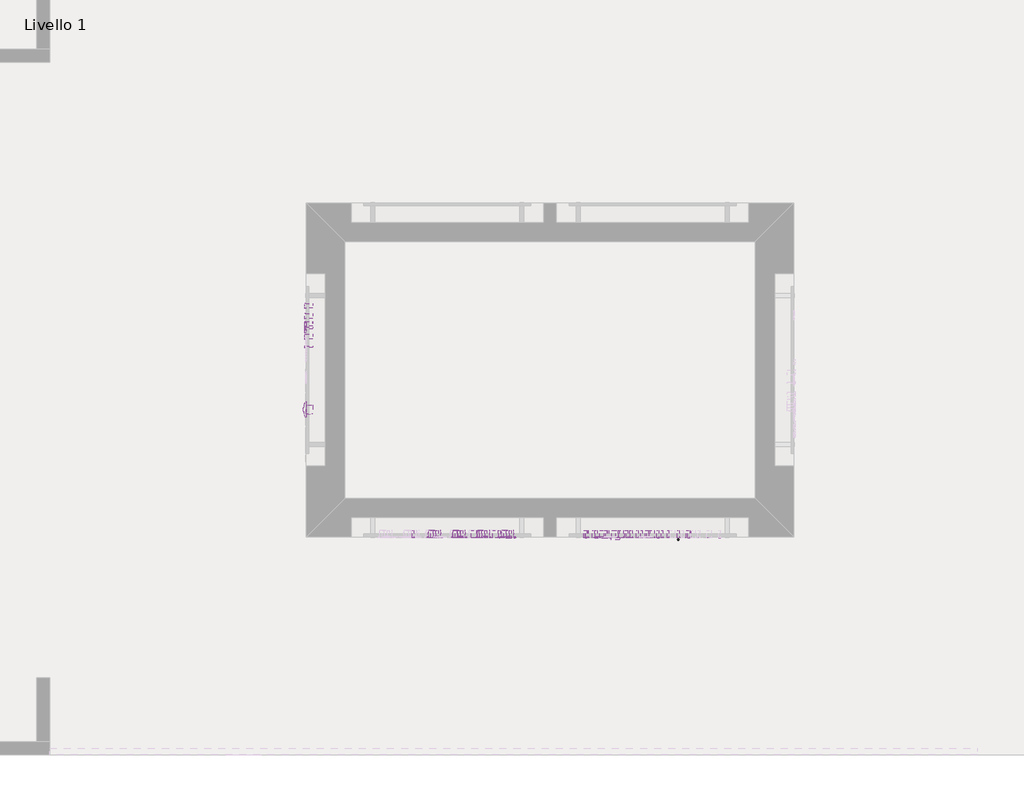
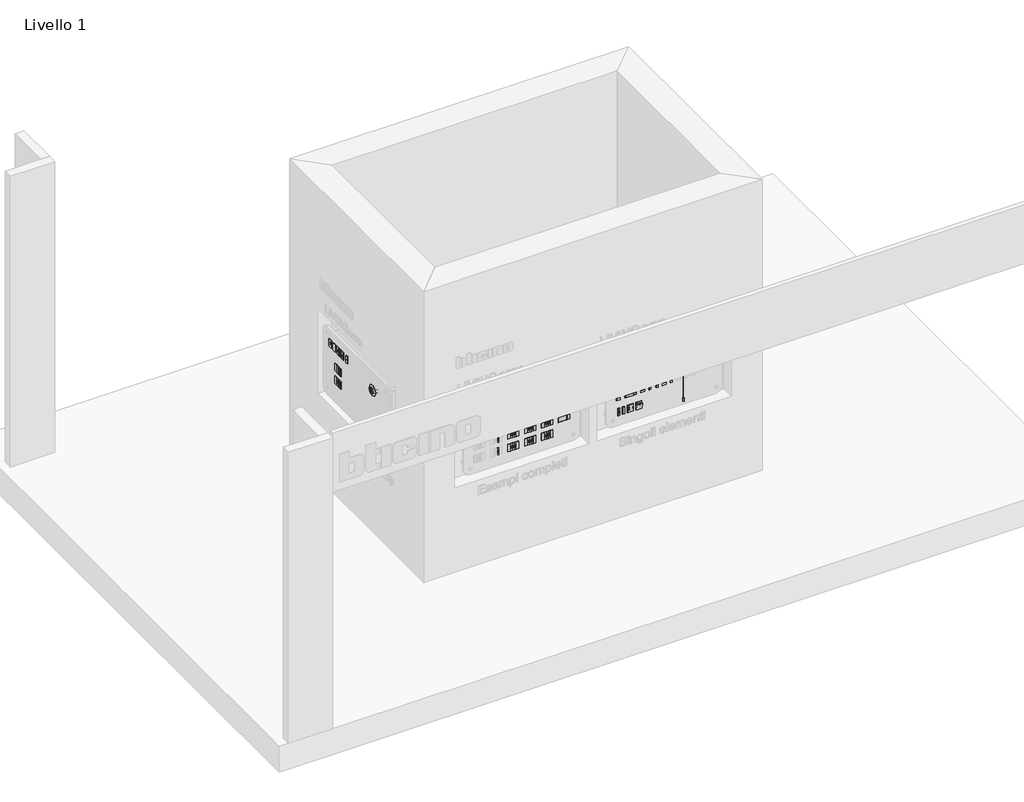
# One storey, part 2 of 4: 52 proxies, 41 switching devices, 5 electric appliances, 1 light fixture.
"""IFC4 building model written with IfcOpenShell, lengths in millimetres."""

from ifc_helpers import new_model, si_unit, origin, place, context, project, spatial, transform, mapped, element, save
from components import communication_devices_3eb54693, electrical_fixtures_f9fe39f6, electrical_fixtures_52576e28, electrical_fixtures_2f19633e, electrical_fixtures_c0c311a9, communication_devices_861a76ba, electrical_fixtures_a66001f9, electrical_fixtures_e0f45b47, communication_devices_85c52ba2, electrical_fixtures_17be88af, electrical_fixtures_2734a769, security_devices_0f9b99a1, electrical_fixtures_8cdf7b6b, electrical_fixtures_a790ef4b, electrical_fixtures_858ea2d2, communication_devices_b7847fef, electrical_fixtures_b1f5ccc0, electrical_fixtures_a1f34e63, electrical_fixtures_146f3771, electrical_fixtures_4785ec01, electrical_equipment_9f0ce258, electrical_fixtures_a492924f, electrical_fixtures_8138bb5d, communication_devices_93ffdf5a, communication_devices_daa9677e, electrical_fixtures_2dbe9040, electrical_fixtures_bfd4cbcf, dimmer_art_k4410_2m_cover_bianco_5cf1a9bc, electric_appliance_a1e4e876, electric_appliance_2f5c1887, electric_appliance_82e80eb8, electric_appliance_112297c8, electric_appliance_8558186f, light_fixture_13e298cc, electrical_fixtures_1fd5a0d3, switching_device_ea576e52, switching_device_fe507ace, switching_device_739d178a, switching_device_65dad4bc, switching_device_90496991, switching_device_5ea9bc78

model = new_model("IFC4")

# Units and contexts
model_context = context("Model", 3, world=origin())
ifc_project = project(units=[si_unit("LENGTHUNIT", "METRE", prefix="MILLI")], contexts=[model_context])

# Site, building, storey
site = spatial("IfcSite", under=ifc_project)
building = spatial("IfcBuilding", under=site)
storey = spatial("IfcBuildingStorey", under=building, Name="Livello 1", Elevation=0.0)

# Proxies
placement = place(None, origin())
communication_devices_shape = communication_devices_3eb54693(model_context)
element("IfcBuildingElementProxy", 1, Name="BT_LN-CoverDispositiviFalsiPoli : Falso polo - Art. K4950 - 1M - Cover Bianco", ObjectType="BT_LN-CoverDispositiviFalsiPoli : Falso polo - Art. K4950 - 1M - Cover Bianco", at=placement, inside=storey, context=model_context, shape_type="MappedRepresentation", body=[
    mapped(communication_devices_shape, transform((12353.8446289, 5119.1271843, 1750.0), x_axis=(1.0, 0.0, 0.0), y_axis=(0.0, 0.0, 1.0), z_axis=(0.0, -1.0, 0.0))),
])
element("IfcBuildingElementProxy", 2, Name="BT_LN-CoverDispositiviFalsiPoli : Falso polo - Art. K4950 - 1M - Cover Bianco", ObjectType="BT_LN-CoverDispositiviFalsiPoli : Falso polo - Art. K4950 - 1M - Cover Bianco", at=placement, inside=storey, context=model_context, shape_type="MappedRepresentation", body=[
    mapped(communication_devices_shape, transform((10223.8446289, 6696.5066564, 1525.8440779), x_axis=(0.0, -1.0, 0.0), y_axis=(0.0, 0.0, 1.0), z_axis=(-1.0, 0.0, 0.0))),
])
electrical_fixtures_shape = electrical_fixtures_f9fe39f6(model_context)
element("IfcBuildingElementProxy", 3, Name="BT_LN-ScatolaIncasso50x_ConPlacca : Scatola da incasso 503E - 3M - Placca Space", ObjectType="BT_LN-ScatolaIncasso50x_ConPlacca : Scatola da incasso 503E - 3M - Placca Space", at=placement, inside=storey, context=model_context, shape_type="MappedRepresentation", body=[
    mapped(electrical_fixtures_shape, transform((11173.8446289, 5069.1271843, 1270.7818091), x_axis=(1.0, 0.0, 0.0), y_axis=(0.0, 0.0, 1.0), z_axis=(0.0, -1.0, 0.0))),
])
electrical_fixtures_2_shape = electrical_fixtures_52576e28(model_context)
element("IfcBuildingElementProxy", 4, Name="BT_LN-ComandoConnesso1M : Comando Tapparelle - Art. K4027C - 1M - Cover Bianco", ObjectType="BT_LN-ComandoConnesso1M : Comando Tapparelle - Art. K4027C - 1M - Cover Bianco", at=placement, inside=storey, context=model_context, shape_type="MappedRepresentation", body=[
    mapped(electrical_fixtures_2_shape, transform((12513.8446289, 5119.1271843, 1750.0), x_axis=(-1.0, 0.0, 0.0), y_axis=(0.0, 0.0, -1.0), z_axis=(0.0, -1.0, 0.0))),
])
element("IfcBuildingElementProxy", 5, Name="BT_LN-Commutatore : Comando Tapparelle - Art. K4037 - 1M - Cover Bianco", ObjectType="BT_LN-Commutatore : Comando Tapparelle - Art. K4037 - 1M - Cover Bianco", at=placement, inside=storey, context=model_context, shape_type="MappedRepresentation", body=[
    mapped(electrical_fixtures_2_shape, transform((12593.8446289, 5119.1271843, 1750.0), x_axis=(1.0, 0.0, 0.0), y_axis=(0.0, 0.0, 1.0), z_axis=(0.0, -1.0, 0.0))),
])
element("IfcBuildingElementProxy", 6, Name="BT_LN-ScatolaIncasso50x_ConPlacca : Scatola da incasso 503E - 3M - Placca Ghiaccio", ObjectType="BT_LN-ScatolaIncasso50x_ConPlacca : Scatola da incasso 503E - 3M - Placca Ghiaccio", at=placement, inside=storey, context=model_context, shape_type="MappedRepresentation", body=[
    mapped(electrical_fixtures_shape, transform((11743.8446289, 5069.1271843, 1570.7818091), x_axis=(1.0, 0.0, 0.0), y_axis=(0.0, 0.0, 1.0), z_axis=(0.0, -1.0, 0.0))),
])
electrical_fixtures_3_shape = electrical_fixtures_2f19633e(model_context)
element("IfcBuildingElementProxy", 7, Name="BT_LN-PresaBipasso : Presa Bipasso - Art. KW4180 - 1M - Cover Bianco", ObjectType="BT_LN-PresaBipasso : Presa Bipasso - Art. KW4180 - 1M - Cover Bianco", at=placement, inside=storey, context=model_context, shape_type="MappedRepresentation", body=[
    mapped(electrical_fixtures_3_shape, transform((12753.8446289, 5119.1271843, 1750.0), x_axis=(1.0, 0.0, 0.0), y_axis=(0.0, 0.0, 1.0), z_axis=(0.0, -1.0, 0.0))),
])
electrical_fixtures_4_shape = electrical_fixtures_c0c311a9(model_context)
element("IfcBuildingElementProxy", 8, Name="BT_LN-PresaStandard_Ita-Ger : Prese standard Italia/Germania - Art.KW4140A16 - 2M - Cover Bianco", ObjectType="BT_LN-PresaStandard_Ita-Ger : Prese standard Italia/Germania - Art.KW4140A16 - 2M - Cover Bianco", at=placement, inside=storey, context=model_context, shape_type="MappedRepresentation", body=[
    mapped(electrical_fixtures_4_shape, transform((12833.8446289, 5119.1271843, 1750.0), x_axis=(1.0, 0.0, 0.0), y_axis=(0.0, 0.0, 1.0), z_axis=(0.0, -1.0, 0.0))),
])
communication_devices_2_shape = communication_devices_861a76ba(model_context)
element("IfcBuildingElementProxy", 9, Name="BT_LN-ConnettoriAudioVideo_ConnettoriAltoparlante : ConnettoreAltoparlanteHomeCinema - KW4294 - 1M - Cover Bianco", ObjectType="BT_LN-ConnettoriAudioVideo_ConnettoriAltoparlante : ConnettoreAltoparlanteHomeCinema - KW4294 - 1M - Cover Bianco", at=placement, inside=storey, context=model_context, shape_type="MappedRepresentation", body=[
    mapped(communication_devices_2_shape, transform((12913.8446289, 5119.1271843, 1750.0), x_axis=(1.0, 0.0, 0.0), y_axis=(0.0, 0.0, 1.0), z_axis=(0.0, -1.0, 0.0))),
])
electrical_fixtures_5_shape = electrical_fixtures_a66001f9(model_context)
element("IfcBuildingElementProxy", 10, Name="BT_LN-ConnettoriAudioVideo_K4284P : Connettore HDMI - Art. K4284P - 1M - Cover Bianco", ObjectType="BT_LN-ConnettoriAudioVideo_K4284P : Connettore HDMI - Art. K4284P - 1M - Cover Bianco", at=placement, inside=storey, context=model_context, shape_type="MappedRepresentation", body=[
    mapped(electrical_fixtures_5_shape, transform((12993.8446289, 5119.1271843, 1750.0), x_axis=(1.0, 0.0, 0.0), y_axis=(0.0, 0.0, 1.0), z_axis=(0.0, -1.0, 0.0))),
])
electrical_fixtures_6_shape = electrical_fixtures_e0f45b47(model_context)
element("IfcBuildingElementProxy", 11, Name="BT_LN-ConnettoriAudioVideo_K4285P : Connettore USB-A - Art. K4285P - 1M - Cover Bianco", ObjectType="BT_LN-ConnettoriAudioVideo_K4285P : Connettore USB-A - Art. K4285P - 1M - Cover Bianco", at=placement, inside=storey, context=model_context, shape_type="MappedRepresentation", body=[
    mapped(electrical_fixtures_6_shape, transform((13073.8446289, 5119.1271843, 1750.0), x_axis=(1.0, 0.0, 0.0), y_axis=(0.0, 0.0, 1.0), z_axis=(0.0, -1.0, 0.0))),
])
communication_devices_3_shape = communication_devices_85c52ba2(model_context)
element("IfcBuildingElementProxy", 12, Name="BT_LN-ConnettoriAudioVideo_ModuloDoppioRCA : ModuloDoppioRCA - Art. KW4269R - 1M - Cover Bianco", ObjectType="BT_LN-ConnettoriAudioVideo_ModuloDoppioRCA : ModuloDoppioRCA - Art. KW4269R - 1M - Cover Bianco", at=placement, inside=storey, context=model_context, shape_type="MappedRepresentation", body=[
    mapped(communication_devices_3_shape, transform((13153.8446289, 5119.1271843, 1750.0), x_axis=(1.0, 0.0, 0.0), y_axis=(0.0, 0.0, 1.0), z_axis=(0.0, -1.0, 0.0))),
])
electrical_fixtures_7_shape = electrical_fixtures_17be88af(model_context)
element("IfcBuildingElementProxy", 13, Name="BT_LN-CoverDispositiviFalsiPoliConUscita : Cover Per Dispositivi Falsi Poli Con Uscita - Art. K4953 - 1M - Cover Bianco", ObjectType="BT_LN-CoverDispositiviFalsiPoliConUscita : Cover Per Dispositivi Falsi Poli Con Uscita - Art. K4953 - 1M - Cover Bianco", at=placement, inside=storey, context=model_context, shape_type="MappedRepresentation", body=[
    mapped(electrical_fixtures_7_shape, transform((13233.8446289, 5119.1271843, 1750.0), x_axis=(-1.0, 0.0, 0.0), y_axis=(0.0, 0.0, -1.0), z_axis=(0.0, -1.0, 0.0))),
])
electrical_fixtures_8_shape = electrical_fixtures_2734a769(model_context)
element("IfcBuildingElementProxy", 14, Name="BT_LN-InterruttoreBipolare : Interruttore Bipolare - Art. KW4002 - 1M - Cover Bianco", ObjectType="BT_LN-InterruttoreBipolare : Interruttore Bipolare - Art. KW4002 - 1M - Cover Bianco", at=placement, inside=storey, context=model_context, shape_type="MappedRepresentation", body=[
    mapped(electrical_fixtures_8_shape, transform((13393.8446289, 5119.1271843, 1750.0), x_axis=(-1.0, 0.0, 0.0), y_axis=(0.0, 0.0, -1.0), z_axis=(0.0, -1.0, 0.0))),
])
security_devices_shape = security_devices_0f9b99a1(model_context)
element("IfcBuildingElementProxy", 15, Name="BT_LN-LampadaDiSicurezza_K4381 : Lampada Di Sicurezza a LED - Art. K4381 - 1M - Cover Sabbia", ObjectType="BT_LN-LampadaDiSicurezza_K4381 : Lampada Di Sicurezza a LED - Art. K4381 - 1M - Cover Sabbia", at=placement, inside=storey, context=model_context, shape_type="MappedRepresentation", body=[
    mapped(security_devices_shape, transform((12593.8446289, 5119.1271843, 1600.0), x_axis=(-1.0, 0.0, 0.0), y_axis=(0.0, 0.0, -1.0), z_axis=(0.0, -1.0, 0.0))),
])
electrical_fixtures_9_shape = electrical_fixtures_8cdf7b6b(model_context)
element("IfcBuildingElementProxy", 16, Name="BT_LN-Presa10A : Presa 10A - Art. KM4113 - 1M - Cover Sabbia", ObjectType="BT_LN-Presa10A : Presa 10A - Art. KM4113 - 1M - Cover Sabbia", at=placement, inside=storey, context=model_context, shape_type="MappedRepresentation", body=[
    mapped(electrical_fixtures_9_shape, transform((12673.8446289, 5119.1271843, 1600.0), x_axis=(-1.0, 0.0, 0.0), y_axis=(0.0, 0.0, -1.0), z_axis=(0.0, -1.0, 0.0))),
])
element("IfcBuildingElementProxy", 17, Name="BT_LN-PulsanteApertura : Pulsante di apertura 10A - Art. K4034 - 1M - Cover Sabbia", ObjectType="BT_LN-PulsanteApertura : Pulsante di apertura 10A - Art. K4034 - 1M - Cover Sabbia", at=placement, inside=storey, context=model_context, shape_type="MappedRepresentation", body=[
    mapped(electrical_fixtures_2_shape, transform((12993.8446289, 5119.1271843, 1600.0), x_axis=(-1.0, 0.0, 0.0), y_axis=(0.0, 0.0, -1.0), z_axis=(0.0, -1.0, 0.0))),
])
electrical_fixtures_10_shape = electrical_fixtures_a790ef4b(model_context)
element("IfcBuildingElementProxy", 18, Name="BT_LN-PulsanteATirante : Pulsante a tirante - Art. KM4033 - 1M - Cover Sabbia", ObjectType="BT_LN-PulsanteATirante : Pulsante a tirante - Art. KM4033 - 1M - Cover Sabbia", at=placement, inside=storey, context=model_context, shape_type="MappedRepresentation", body=[
    mapped(electrical_fixtures_10_shape, transform((13073.8446289, 5119.1271843, 1600.0), x_axis=(1.0, 0.0, 0.0), y_axis=(0.0, 0.0, 1.0), z_axis=(0.0, -1.0, 0.0))),
])
electrical_fixtures_11_shape = electrical_fixtures_858ea2d2(model_context)
element("IfcBuildingElementProxy", 19, Name="BT_LN-PulsanteTarga : Pulsante targa 3A - Art. K4040 - 2M", ObjectType="BT_LN-PulsanteTarga : Pulsante targa 3A - Art. K4040 - 2M", at=placement, inside=storey, context=model_context, shape_type="MappedRepresentation", body=[
    mapped(electrical_fixtures_11_shape, transform((13153.8446289, 5119.1271843, 1600.0), x_axis=(1.0, 0.0, 0.0), y_axis=(0.0, 0.0, 1.0), z_axis=(0.0, -1.0, 0.0))),
])
communication_devices_4_shape = communication_devices_b7847fef(model_context)
element("IfcBuildingElementProxy", 20, Name="BT_LN-SegnalazioneAcustica_Suoneria_K4351V12 : Suoneria - Art. K4355V12 - 2M - Cover Sabbia", ObjectType="BT_LN-SegnalazioneAcustica_Suoneria_K4351V12 : Suoneria - Art. K4355V12 - 2M - Cover Sabbia", at=placement, inside=storey, context=model_context, shape_type="MappedRepresentation", body=[
    mapped(communication_devices_4_shape, transform((11333.3177461, 5119.1271843, 1758.0), x_axis=(1.0, 0.0, 0.0), y_axis=(0.0, 0.0, 1.0), z_axis=(0.0, -1.0, 0.0))),
])
element("IfcBuildingElementProxy", 21, Name="BT_LN-Termostato : Termostato - Art. KG4441 - 2M - Cover Nero", ObjectType="BT_LN-Termostato : Termostato - Art. KG4441 - 2M - Cover Nero", at=placement, inside=storey, context=model_context, shape_type="MappedRepresentation", body=[
    mapped(communication_devices_4_shape, transform((12353.8446289, 5119.1271843, 1450.0), x_axis=(1.0, 0.0, 0.0), y_axis=(0.0, 0.0, 1.0), z_axis=(0.0, -1.0, 0.0))),
])
element("IfcBuildingElementProxy", 22, Name="BT_LN-Termostato : Termostato - Art. KG4441 - 2M - Cover Nero", ObjectType="BT_LN-Termostato : Termostato - Art. KG4441 - 2M - Cover Nero", at=placement, inside=storey, context=model_context, shape_type="MappedRepresentation", body=[
    mapped(communication_devices_4_shape, transform((11647.171355, 5119.1271843, 1758.0), x_axis=(1.0, 0.0, 0.0), y_axis=(0.0, 0.0, 1.0), z_axis=(0.0, -1.0, 0.0))),
])
electrical_fixtures_12_shape = electrical_fixtures_b1f5ccc0(model_context)
element("IfcBuildingElementProxy", 23, Name="BT_LN-TermostatoConnesso : Termostato connesso - Art. XG8002 -  3M - Cover Nero", ObjectType="BT_LN-TermostatoConnesso : Termostato connesso - Art. XG8002 -  3M - Cover Nero", at=placement, inside=storey, context=model_context, shape_type="MappedRepresentation", body=[
    mapped(electrical_fixtures_12_shape, transform((12491.8446289, 5069.1271843, 1450.0), x_axis=(1.0, 0.0, 0.0), y_axis=(0.0, 0.0, 1.0), z_axis=(0.0, -1.0, 0.0))),
])
element("IfcBuildingElementProxy", 24, Name="BT_LN-TermostatoConnesso : Termostato connesso - Art. XG8002 -  3M - Cover Nero", ObjectType="BT_LN-TermostatoConnesso : Termostato connesso - Art. XG8002 -  3M - Cover Nero", at=placement, inside=storey, context=model_context, shape_type="MappedRepresentation", body=[
    mapped(electrical_fixtures_12_shape, transform((11743.8446289, 5069.1271843, 1420.7818091), x_axis=(1.0, 0.0, 0.0), y_axis=(0.0, 0.0, 1.0), z_axis=(0.0, -1.0, 0.0))),
])
electrical_fixtures_13_shape = electrical_fixtures_a1f34e63(model_context)
element("IfcBuildingElementProxy", 25, Name="BT_LN-USB_A.C-K4287C2 : Presa USB-A - Art.4287C2 - 2M - Cover Nero", ObjectType="BT_LN-USB_A.C-K4287C2 : Presa USB-A - Art.4287C2 - 2M - Cover Nero", at=placement, inside=storey, context=model_context, shape_type="MappedRepresentation", body=[
    mapped(electrical_fixtures_13_shape, transform((12866.8446289, 5119.1271843, 1450.0), x_axis=(1.0, 0.0, 0.0), y_axis=(0.0, 0.0, 1.0), z_axis=(0.0, -1.0, 0.0))),
])
element("IfcBuildingElementProxy", 26, Name="BT_LN-USB_A-K4285C1 : Presa USB-A - Art. K4285C1 - 1M - Cover Nero", ObjectType="BT_LN-USB_A-K4285C1 : Presa USB-A - Art. K4285C1 - 1M - Cover Nero", at=placement, inside=storey, context=model_context, shape_type="MappedRepresentation", body=[
    mapped(electrical_fixtures_6_shape, transform((12946.8446289, 5119.1271843, 1450.0), x_axis=(1.0, 0.0, 0.0), y_axis=(0.0, 0.0, 1.0), z_axis=(0.0, -1.0, 0.0))),
])
electrical_fixtures_14_shape = electrical_fixtures_146f3771(model_context)
element("IfcBuildingElementProxy", 27, Name="BT_LN-USB_A-K4285C2 : Presa USB-A - Art. K4285C2 - 2M - Cover Nero", ObjectType="BT_LN-USB_A-K4285C2 : Presa USB-A - Art. K4285C2 - 2M - Cover Nero", at=placement, inside=storey, context=model_context, shape_type="MappedRepresentation", body=[
    mapped(electrical_fixtures_14_shape, transform((11479.971355, 5119.1271843, 1758.0), x_axis=(1.0, 0.0, 0.0), y_axis=(0.0, 0.0, 1.0), z_axis=(0.0, -1.0, 0.0))),
])
electrical_fixtures_15_shape = electrical_fixtures_4785ec01(model_context)
element("IfcBuildingElementProxy", 28, Name="BT_LN-USB_A-K4286C1 : Presa USB-C - Art. K4286C1 - 1M - Cover Nero", ObjectType="BT_LN-USB_A-K4286C1 : Presa USB-C - Art. K4286C1 - 1M - Cover Nero", at=placement, inside=storey, context=model_context, shape_type="MappedRepresentation", body=[
    mapped(electrical_fixtures_15_shape, transform((11512.971355, 5119.1271843, 1758.0), x_axis=(1.0, 0.0, 0.0), y_axis=(0.0, 0.0, 1.0), z_axis=(0.0, -1.0, 0.0))),
])
electrical_equipment_shape = electrical_equipment_9f0ce258(model_context)
element("IfcBuildingElementProxy", 29, Name="BT_LN_PlaccaSuperficiale_Placca : Living Now - Placca 3 Moduli", ObjectType="BT_LN_PlaccaSuperficiale_Placca : Living Now - Placca 3 Moduli", at=placement, inside=storey, context=model_context, shape_type="MappedRepresentation", body=[
    mapped(electrical_equipment_shape, transform((10173.8446289, 6718.2191564, 1525.8440779), x_axis=(0.0, -1.0, 0.0), y_axis=(0.0, 0.0, 1.0), z_axis=(-1.0, 0.0, 0.0))),
])
element("IfcBuildingElementProxy", 30, Name="BT_LN_PlaccaSuperficiale_Placca : Living Now - Placca 3 Moduli", ObjectType="BT_LN_PlaccaSuperficiale_Placca : Living Now - Placca 3 Moduli", at=placement, inside=storey, context=model_context, shape_type="MappedRepresentation", body=[
    mapped(electrical_equipment_shape, transform((10173.8446289, 6718.2191564, 1375.8440779), x_axis=(0.0, -1.0, 0.0), y_axis=(0.0, 0.0, 1.0), z_axis=(-1.0, 0.0, 0.0))),
])
electrical_fixtures_16_shape = electrical_fixtures_a492924f(model_context)
element("IfcBuildingElementProxy", 31, Name="BT_LN_MHU-AttuatoreComando : Attuatore/Comando Tapparelle  - Art. K4672M2S - 2M - Colore nero", ObjectType="BT_LN_MHU-AttuatoreComando : Attuatore/Comando Tapparelle  - Art. K4672M2S - 2M - Colore nero", at=placement, inside=storey, context=model_context, shape_type="MappedRepresentation", body=[
    mapped(electrical_fixtures_16_shape, transform((10222.8446289, 6729.2191564, 1375.8440779), x_axis=(0.0, -1.0, 0.0), y_axis=(0.0, 0.0, 1.0), z_axis=(-1.0, 0.0, 0.0))),
])
element("IfcBuildingElementProxy", 32, Name="BT_LN_MHU-AttuatoreComando : Attuatore/Comando Tapparelle  - Art. K4672M2S - 2M - Colore nero", ObjectType="BT_LN_MHU-AttuatoreComando : Attuatore/Comando Tapparelle  - Art. K4672M2S - 2M - Colore nero", at=placement, inside=storey, context=model_context, shape_type="MappedRepresentation", body=[
    mapped(electrical_fixtures_16_shape, transform((10223.8446289, 6869.1271843, 1750.0), x_axis=(0.0, 1.0, 0.0), y_axis=(0.0, 0.0, -1.0), z_axis=(-1.0, 0.0, 0.0))),
])
element("IfcBuildingElementProxy", 33, Name="BT_LN-CoverDispositiviFalsiPoli : Falso polo - Art. K4950 - 1M - Cover Nero", ObjectType="BT_LN-CoverDispositiviFalsiPoli : Falso polo - Art. K4950 - 1M - Cover Nero", at=placement, inside=storey, context=model_context, shape_type="MappedRepresentation", body=[
    mapped(communication_devices_shape, transform((10223.8446289, 6696.2191564, 1375.8440779), x_axis=(0.0, -1.0, 0.0), y_axis=(0.0, 0.0, 1.0), z_axis=(-1.0, 0.0, 0.0))),
])
element("IfcBuildingElementProxy", 34, Name="BT_LN-CoverDispositiviFalsiPoli : Falso polo - Art. K4950 - 1M - Cover Nero", ObjectType="BT_LN-CoverDispositiviFalsiPoli : Falso polo - Art. K4950 - 1M - Cover Nero", at=placement, inside=storey, context=model_context, shape_type="MappedRepresentation", body=[
    mapped(communication_devices_shape, transform((11680.196355, 5119.1271843, 1758.0), x_axis=(1.0, 0.0, 0.0), y_axis=(0.0, 0.0, 1.0), z_axis=(0.0, -1.0, 0.0))),
])
element("IfcBuildingElementProxy", 35, Name="BT_LN_MHU-Termostato : Termostato MyHome_UP - Art. KW4691 - 2M - Cover bianco", ObjectType="BT_LN_MHU-Termostato : Termostato MyHome_UP - Art. KW4691 - 2M - Cover bianco", at=placement, inside=storey, context=model_context, shape_type="MappedRepresentation", body=[
    mapped(communication_devices_4_shape, transform((10223.8446289, 6729.5191564, 1525.8440779), x_axis=(0.0, -1.0, 0.0), y_axis=(0.0, 0.0, 1.0), z_axis=(-1.0, 0.0, 0.0))),
])
element("IfcBuildingElementProxy", 36, Name="BT_LN_MHU-Termostato : Termostato MyHome_UP - Art. KW4691 - 2M - Cover bianco", ObjectType="BT_LN_MHU-Termostato : Termostato MyHome_UP - Art. KW4691 - 2M - Cover bianco", at=placement, inside=storey, context=model_context, shape_type="MappedRepresentation", body=[
    mapped(communication_devices_4_shape, transform((10223.8446289, 6789.1271843, 1750.0), x_axis=(0.0, -1.0, 0.0), y_axis=(0.0, 0.0, 1.0), z_axis=(-1.0, 0.0, 0.0))),
])
electrical_fixtures_17_shape = electrical_fixtures_8138bb5d(model_context)
element("IfcBuildingElementProxy", 37, Name="BT_LN_MHU-DispositiviDiComando_3M : Dispositivi di comando  - Art. K4652M3 - 3M - Cover sabbia", ObjectType="BT_LN_MHU-DispositiviDiComando_3M : Dispositivi di comando  - Art. K4652M3 - 3M - Cover sabbia", at=placement, inside=storey, context=model_context, shape_type="MappedRepresentation", body=[
    mapped(electrical_fixtures_17_shape, transform((10173.8446289, 6709.1271843, 1750.0), x_axis=(0.0, -1.0, 0.0), y_axis=(0.0, 0.0, 1.0), z_axis=(-1.0, 0.0, 0.0))),
])
communication_devices_5_shape = communication_devices_93ffdf5a(model_context)
element("IfcBuildingElementProxy", 38, Name="BT_LN_MHU-LettoreProssimita : Lettore Prossimita - Art. K4215 - 1M - Cover Bianco", ObjectType="BT_LN_MHU-LettoreProssimita : Lettore Prossimita - Art. K4215 - 1M - Cover Bianco", at=placement, inside=storey, context=model_context, shape_type="MappedRepresentation", body=[
    mapped(communication_devices_5_shape, transform((10223.8446289, 6549.1271843, 1750.0), x_axis=(0.0, 1.0, 0.0), y_axis=(0.0, 0.0, -1.0), z_axis=(-1.0, 0.0, 0.0))),
])
element("IfcBuildingElementProxy", 39, Name="BT_LN-CoverDispositiviFalsiPoli : Falso polo - Art. K4950 - 1M - Cover Sabbia", ObjectType="BT_LN-CoverDispositiviFalsiPoli : Falso polo - Art. K4950 - 1M - Cover Sabbia", at=placement, inside=storey, context=model_context, shape_type="MappedRepresentation", body=[
    mapped(communication_devices_shape, transform((11366.3177461, 5119.1271843, 1758.0), x_axis=(1.0, 0.0, 0.0), y_axis=(0.0, 0.0, 1.0), z_axis=(0.0, -1.0, 0.0))),
])
element("IfcBuildingElementProxy", 40, Name="BT_LN-ScatolaIncasso50x_ConPlacca : Scatola da incasso 503E - 3M - Placca Noce", ObjectType="BT_LN-ScatolaIncasso50x_ConPlacca : Scatola da incasso 503E - 3M - Placca Noce", at=placement, inside=storey, context=model_context, shape_type="MappedRepresentation", body=[
    mapped(electrical_fixtures_shape, transform((11363.8446289, 5069.1271843, 1270.7818091), x_axis=(1.0, 0.0, 0.0), y_axis=(0.0, 0.0, 1.0), z_axis=(0.0, -1.0, 0.0))),
])
element("IfcBuildingElementProxy", 41, Name="BT_LN-ScatolaIncasso50x_ConPlacca : Scatola da incasso 503E - 3M - Placca Moon", ObjectType="BT_LN-ScatolaIncasso50x_ConPlacca : Scatola da incasso 503E - 3M - Placca Moon", at=placement, inside=storey, context=model_context, shape_type="MappedRepresentation", body=[
    mapped(electrical_fixtures_shape, transform((11173.8446289, 5069.1271843, 1570.7818091), x_axis=(1.0, 0.0, 0.0), y_axis=(0.0, 0.0, 1.0), z_axis=(0.0, -1.0, 0.0))),
])
element("IfcBuildingElementProxy", 42, Name="BT_LN-ScatolaIncasso50x_ConPlacca : Scatola da incasso 503E - 3M - Placca Sky", ObjectType="BT_LN-ScatolaIncasso50x_ConPlacca : Scatola da incasso 503E - 3M - Placca Sky", at=placement, inside=storey, context=model_context, shape_type="MappedRepresentation", body=[
    mapped(electrical_fixtures_shape, transform((11363.8446289, 5069.1271843, 1570.7818091), x_axis=(1.0, 0.0, 0.0), y_axis=(0.0, 0.0, 1.0), z_axis=(0.0, -1.0, 0.0))),
])
element("IfcBuildingElementProxy", 43, Name="BT_LN-ScatolaIncasso50x_ConPlacca : Scatola da incasso 503E - 3M - Placca Pixel", ObjectType="BT_LN-ScatolaIncasso50x_ConPlacca : Scatola da incasso 503E - 3M - Placca Pixel", at=placement, inside=storey, context=model_context, shape_type="MappedRepresentation", body=[
    mapped(electrical_fixtures_shape, transform((11553.8446289, 5069.1271843, 1570.7818091), x_axis=(1.0, 0.0, 0.0), y_axis=(0.0, 0.0, 1.0), z_axis=(0.0, -1.0, 0.0))),
])
element("IfcBuildingElementProxy", 44, Name="BT_LN-ScatolaIncasso50x_ConPlacca : Scatola da incasso 503E - 3M - Placca Rame", ObjectType="BT_LN-ScatolaIncasso50x_ConPlacca : Scatola da incasso 503E - 3M - Placca Rame", at=placement, inside=storey, context=model_context, shape_type="MappedRepresentation", body=[
    mapped(electrical_fixtures_shape, transform((11173.8446289, 5069.1271843, 1420.7818091), x_axis=(1.0, 0.0, 0.0), y_axis=(0.0, 0.0, 1.0), z_axis=(0.0, -1.0, 0.0))),
])
element("IfcBuildingElementProxy", 45, Name="BT_LN-ScatolaIncasso50x_ConPlacca : Scatola da incasso 503E - 3M - Placca Aura", ObjectType="BT_LN-ScatolaIncasso50x_ConPlacca : Scatola da incasso 503E - 3M - Placca Aura", at=placement, inside=storey, context=model_context, shape_type="MappedRepresentation", body=[
    mapped(electrical_fixtures_shape, transform((11363.8446289, 5069.1271843, 1420.7818091), x_axis=(1.0, 0.0, 0.0), y_axis=(0.0, 0.0, 1.0), z_axis=(0.0, -1.0, 0.0))),
])
element("IfcBuildingElementProxy", 46, Name="BT_LN-ScatolaIncasso50x_ConPlacca : Scatola da incasso 503E - 3M - Placca Optic", ObjectType="BT_LN-ScatolaIncasso50x_ConPlacca : Scatola da incasso 503E - 3M - Placca Optic", at=placement, inside=storey, context=model_context, shape_type="MappedRepresentation", body=[
    mapped(electrical_fixtures_shape, transform((11553.8446289, 5069.1271843, 1420.7818091), x_axis=(1.0, 0.0, 0.0), y_axis=(0.0, 0.0, 1.0), z_axis=(0.0, -1.0, 0.0))),
])
element("IfcBuildingElementProxy", 47, Name="BT_LN-ScatolaIncasso50x_ConPlacca : Scatola da incasso 503E - 3M - Placca Notte", ObjectType="BT_LN-ScatolaIncasso50x_ConPlacca : Scatola da incasso 503E - 3M - Placca Notte", at=placement, inside=storey, context=model_context, shape_type="MappedRepresentation", body=[
    mapped(electrical_fixtures_shape, transform((11553.8446289, 5069.1271843, 1270.7818091), x_axis=(1.0, 0.0, 0.0), y_axis=(0.0, 0.0, 1.0), z_axis=(0.0, -1.0, 0.0))),
])
communication_devices_6_shape = communication_devices_daa9677e(model_context)
element("IfcBuildingElementProxy", 48, Name="BT_LN_ComandoFuoricamera_Commutatore : Comandi Fuoricamera Commutatore - Art. K4027H - 1M - Cover Bianco", ObjectType="BT_LN_ComandoFuoricamera_Commutatore : Comandi Fuoricamera Commutatore - Art. K4027H - 1M - Cover Bianco", at=placement, inside=storey, context=model_context, shape_type="MappedRepresentation", body=[
    mapped(communication_devices_6_shape, transform((12358.8446289, 5119.1271843, 1264.1032786), x_axis=(1.0, 0.0, 0.0), y_axis=(0.0, 0.0, 1.0), z_axis=(0.0, -1.0, 0.0))),
])
element("IfcBuildingElementProxy", 49, Name="BT_LN_ComandoFuoricamera_Portalampada : Comando Fuoricamera Portalampade - Art. K4373 - 1M - Cover Bianco", ObjectType="BT_LN_ComandoFuoricamera_Portalampada : Comando Fuoricamera Portalampade - Art. K4373 - 1M - Cover Bianco", at=placement, inside=storey, context=model_context, shape_type="MappedRepresentation", body=[
    mapped(communication_devices_shape, transform((12411.3446289, 5119.1271843, 1264.1032786), x_axis=(1.0, 0.0, 0.0), y_axis=(0.0, 0.0, 1.0), z_axis=(0.0, -1.0, 0.0))),
])
electrical_fixtures_18_shape = electrical_fixtures_2dbe9040(model_context)
element("IfcBuildingElementProxy", 50, Name="BT_LN_PresaRasoio : Prese Rasoio - Art. KW4177 - 1M", ObjectType="BT_LN_PresaRasoio : Prese Rasoio - Art. KW4177 - 1M", at=placement, inside=storey, context=model_context, shape_type="MappedRepresentation", body=[
    mapped(electrical_fixtures_18_shape, transform((12488.8446289, 5119.1271843, 1264.1032786), x_axis=(1.0, 0.0, 0.0), y_axis=(0.0, 0.0, 1.0), z_axis=(0.0, -1.0, 0.0))),
])
electrical_fixtures_19_shape = electrical_fixtures_bfd4cbcf(model_context)
element("IfcBuildingElementProxy", 51, Name="BT_LN-TascaPortabadge : Tasca portabadge - Art. K4549 - 3M - Cover Bianco", ObjectType="BT_LN-TascaPortabadge : Tasca portabadge - Art. K4549 - 3M - Cover Bianco", at=placement, inside=storey, context=model_context, shape_type="MappedRepresentation", body=[
    mapped(electrical_fixtures_19_shape, transform((12583.8446289, 5119.1271843, 1264.1032786), x_axis=(1.0, 0.0, 0.0), y_axis=(0.0, 0.0, 1.0), z_axis=(0.0, -1.0, 0.0))),
])
dimmer_art_k4410_2m_cover_bianco_shape = dimmer_art_k4410_2m_cover_bianco_5cf1a9bc(model_context)
element("IfcBuildingElementProxy", 52, Name="BT_LN-Dimmer : Dimmer - Art. K4410 - 2M - Cover Bianco", ObjectType="BT_LN-Dimmer : Dimmer - Art. K4410 - 2M - Cover Bianco", at=placement, inside=storey, context=model_context, shape_type="MappedRepresentation", body=[
    mapped(dimmer_art_k4410_2m_cover_bianco_shape, transform((13313.8446289, 5119.1271843, 1750.0), x_axis=(1.0, 0.0, 0.0), y_axis=(0.0, 0.0, 1.0), z_axis=(0.0, -1.0, 0.0))),
])

# Electric appliances
electric_appliance_shape = electric_appliance_a1e4e876(model_context)
element("IfcElectricAppliance", 53, ObjectType="BT_LN-1M_Presa TV : Presa TV - Art. K4202P10 - 1M - Cover Bianco", at=placement, inside=storey, context=model_context, shape_type="MappedRepresentation", body=[
    mapped(electric_appliance_shape, transform((12433.8446289, 5119.1271843, 1750.0), x_axis=(-1.0, 0.0, 0.0), y_axis=(0.0, 0.0, -1.0), z_axis=(0.0, -1.0, 0.0))),
])
electric_appliance_2_shape = electric_appliance_2f5c1887(model_context)
element("IfcElectricAppliance", 54, ObjectType="BT_LN-PresaRJ11 : Presa RJ11 - Art. KM4258RJ11 - 1M - Cover Sabbia", at=placement, inside=storey, context=model_context, shape_type="MappedRepresentation", body=[
    mapped(electric_appliance_2_shape, transform((12753.8446289, 5119.1271843, 1600.0), x_axis=(1.0, 0.0, 0.0), y_axis=(0.0, 0.0, 1.0), z_axis=(0.0, -1.0, 0.0))),
])
electric_appliance_3_shape = electric_appliance_82e80eb8(model_context)
element("IfcElectricAppliance", 55, ObjectType="BT_LN-PresaRJ45 : Presa RJ45 - Art. KM4279C6 - 1M - Cover Sabbia", at=placement, inside=storey, context=model_context, shape_type="MappedRepresentation", body=[
    mapped(electric_appliance_3_shape, transform((12833.8446289, 5119.1271843, 1600.0), x_axis=(1.0, 0.0, 0.0), y_axis=(0.0, 0.0, 1.0), z_axis=(0.0, -1.0, 0.0))),
])
electric_appliance_4_shape = electric_appliance_112297c8(model_context)
element("IfcElectricAppliance", 56, ObjectType="BT_LN-TV_A-K4202F : Presa Coassiale - Art. K4202F - 1M - Cover Nero", at=placement, inside=storey, context=model_context, shape_type="MappedRepresentation", body=[
    mapped(electric_appliance_4_shape, transform((12706.8446289, 5119.1271843, 1450.0), x_axis=(-1.0, 0.0, 0.0), y_axis=(0.0, 0.0, -1.0), z_axis=(0.0, -1.0, 0.0))),
])
electric_appliance_5_shape = electric_appliance_8558186f(model_context)
element("IfcElectricAppliance", 57, ObjectType="BT_LN-TV_A-K4214D : Presa Coassiale - Art. K4214D - 1M - Cover Nero", at=placement, inside=storey, context=model_context, shape_type="MappedRepresentation", body=[
    mapped(electric_appliance_5_shape, transform((12786.8446289, 5119.1271843, 1450.0), x_axis=(1.0, 0.0, 0.0), y_axis=(0.0, 0.0, 1.0), z_axis=(0.0, -1.0, 0.0))),
])

# Light fixture
light_fixture_shape = light_fixture_13e298cc(model_context)
element("IfcLightFixture", 58, ObjectType="BT_LN-TorciaEstraibile : Torcia estraibile - Art. K4380 - 2M - Cover Nero", at=placement, inside=storey, context=model_context, shape_type="MappedRepresentation", body=[
    mapped(light_fixture_shape, transform((12626.8446289, 5119.1271843, 1450.0), x_axis=(-1.0, 0.0, 0.0), y_axis=(0.0, 0.0, -1.0), z_axis=(0.0, -1.0, 0.0))),
])

# Switching devices
electrical_fixtures_20_shape = electrical_fixtures_1fd5a0d3(model_context)
element("IfcSwitchingDevice", 59, ObjectType="BT_LN-Comandi_Principali : Comandi Principali - Art. K4005 - 2M - Cover Bianco", at=placement, inside=storey, context=model_context, shape_type="MappedRepresentation", body=[
    mapped(electrical_fixtures_20_shape, transform((12673.8446289, 5119.1271843, 1750.0), x_axis=(1.0, 0.0, 0.0), y_axis=(0.0, 0.0, 1.0), z_axis=(0.0, -1.0, 0.0))),
])
switching_device_shape = switching_device_ea576e52(model_context)
element("IfcSwitchingDevice", 60, ObjectType="BT_LN-InterruttoreIR_K4430 : Interruttore IR - Art. K4430 - 2M - Cover Sabbia", at=placement, inside=storey, context=model_context, shape_type="MappedRepresentation", body=[
    mapped(switching_device_shape, transform((12353.8446289, 5119.1271843, 1600.0), x_axis=(1.0, 0.0, 0.0), y_axis=(0.0, 0.0, 1.0), z_axis=(0.0, -1.0, 0.0))),
])
switching_device_2_shape = switching_device_fe507ace(model_context)
element("IfcSwitchingDevice", 61, ObjectType="BT_LN-InterruttoreIR_K4431 : Interruttore IR - Art. K4431 - 1M - Cover Sabbia", at=placement, inside=storey, context=model_context, shape_type="MappedRepresentation", body=[
    mapped(switching_device_2_shape, transform((12433.8446289, 5119.1271843, 1600.0), x_axis=(1.0, 0.0, 0.0), y_axis=(0.0, 0.0, 1.0), z_axis=(0.0, -1.0, 0.0))),
])
switching_device_3_shape = switching_device_739d178a(model_context)
element("IfcSwitchingDevice", 62, ObjectType="BT_LN-InterruttoreIR_K4432 : Interruttore IR - Art. K4432 - 2M - Cover Sabbia", at=placement, inside=storey, context=model_context, shape_type="MappedRepresentation", body=[
    mapped(switching_device_3_shape, transform((12513.8446289, 5119.1271843, 1600.0), x_axis=(1.0, 0.0, 0.0), y_axis=(0.0, 0.0, 1.0), z_axis=(0.0, -1.0, 0.0))),
])
switching_device_4_shape = switching_device_65dad4bc(model_context)
element("IfcSwitchingDevice", 63, ObjectType="BT_LN-PulsanteAltaVisibilità_1M2M : Comando alta luminosità - Art. K4004L - 1M - Cover Sabbia", at=placement, inside=storey, context=model_context, shape_type="MappedRepresentation", body=[
    mapped(switching_device_4_shape, transform((12913.8446289, 5119.1271843, 1600.0), x_axis=(-1.0, 0.0, 0.0), y_axis=(0.0, 0.0, -1.0), z_axis=(0.0, -1.0, 0.0))),
])
element("IfcSwitchingDevice", 64, ObjectType="BT_LN_MHU-GreenSwitch_PIR : Interruttore IR - Art. K4659 - 2M - Cover Bianco", at=placement, inside=storey, context=model_context, shape_type="MappedRepresentation", body=[
    mapped(switching_device_3_shape, transform((10223.8446289, 6629.1271843, 1750.0), x_axis=(0.0, 1.0, 0.0), y_axis=(0.0, 0.0, -1.0), z_axis=(-1.0, 0.0, 0.0))),
])
switching_device_5_shape = switching_device_90496991(model_context)
element("IfcSwitchingDevice", 65, ObjectType="BT_LN_MHU-SensoriAdInfrarossiIncasso_PIR : Scatola per installazione a incasso - Art. 502E (sensori)", at=placement, inside=storey, context=model_context, shape_type="MappedRepresentation", body=[
    mapped(switching_device_5_shape, transform((10173.8446289, 6060.1400778, 1678.5406569), x_axis=(0.0, -1.0, 0.0), y_axis=(0.0, 0.0, 1.0), z_axis=(-1.0, 0.0, 0.0))),
])
switching_device_6_shape = switching_device_5ea9bc78(model_context)
element("IfcSwitchingDevice", 66, ObjectType="BT_LN_MHU-SensoriAdInfrarossi_PIR_BMSE3003 : BT_LN_MHU-SensoriAdInfrarossi_PIR_BMSE3003", at=placement, inside=storey, context=model_context, shape_type="MappedRepresentation", body=[
    mapped(switching_device_6_shape, transform((10173.8446289, 6060.1400778, 1678.5406569), x_axis=(0.0, -1.0, 0.0), y_axis=(0.0, 0.0, 1.0), z_axis=(-1.0, 0.0, 0.0))),
])
element("IfcSwitchingDevice", 67, ObjectType="BT_LN-Comandi_Principali : Comandi Principali - Art. K4001 - 1M - Cover Sabbia", at=placement, inside=storey, context=model_context, shape_type="MappedRepresentation", body=[
    mapped(electrical_fixtures_2_shape, transform((11005.8446289, 5119.1271843, 1420.7818091), x_axis=(1.0, 0.0, 0.0), y_axis=(0.0, 0.0, 1.0), z_axis=(0.0, -1.0, 0.0))),
])
element("IfcSwitchingDevice", 68, ObjectType="BT_LN-Comandi_Principali : Comandi Principali - Art. K4001 - 1M - Cover Sabbia", at=placement, inside=storey, context=model_context, shape_type="MappedRepresentation", body=[
    mapped(electrical_fixtures_2_shape, transform((11151.8446289, 5119.1271843, 1420.7818091), x_axis=(1.0, 0.0, 0.0), y_axis=(0.0, 0.0, 1.0), z_axis=(0.0, -1.0, 0.0))),
])
element("IfcSwitchingDevice", 69, ObjectType="BT_LN-Comandi_Principali : Comandi Principali - Art. K4001 - 1M - Cover Sabbia", at=placement, inside=storey, context=model_context, shape_type="MappedRepresentation", body=[
    mapped(electrical_fixtures_2_shape, transform((11173.8446289, 5119.1271843, 1420.7818091), x_axis=(1.0, 0.0, 0.0), y_axis=(0.0, 0.0, 1.0), z_axis=(0.0, -1.0, 0.0))),
])
element("IfcSwitchingDevice", 70, ObjectType="BT_LN-Comandi_Principali : Comandi Principali - Art. K4001 - 1M - Cover Sabbia", at=placement, inside=storey, context=model_context, shape_type="MappedRepresentation", body=[
    mapped(electrical_fixtures_2_shape, transform((11195.8446289, 5119.1271843, 1420.7818091), x_axis=(1.0, 0.0, 0.0), y_axis=(0.0, 0.0, 1.0), z_axis=(0.0, -1.0, 0.0))),
])
element("IfcSwitchingDevice", 71, ObjectType="BT_LN-Comandi_Principali : Comandi Principali - Art. K4001 - 1M - Cover Sabbia", at=placement, inside=storey, context=model_context, shape_type="MappedRepresentation", body=[
    mapped(electrical_fixtures_2_shape, transform((11341.8446289, 5119.1271843, 1420.7818091), x_axis=(1.0, 0.0, 0.0), y_axis=(0.0, 0.0, 1.0), z_axis=(0.0, -1.0, 0.0))),
])
element("IfcSwitchingDevice", 72, ObjectType="BT_LN-Comandi_Principali : Comandi Principali - Art. K4001 - 1M - Cover Sabbia", at=placement, inside=storey, context=model_context, shape_type="MappedRepresentation", body=[
    mapped(electrical_fixtures_2_shape, transform((11363.8446289, 5119.1271843, 1420.7818091), x_axis=(1.0, 0.0, 0.0), y_axis=(0.0, 0.0, 1.0), z_axis=(0.0, -1.0, 0.0))),
])
element("IfcSwitchingDevice", 73, ObjectType="BT_LN-Comandi_Principali : Comandi Principali - Art. K4001 - 1M - Cover Sabbia", at=placement, inside=storey, context=model_context, shape_type="MappedRepresentation", body=[
    mapped(electrical_fixtures_2_shape, transform((11385.8446289, 5119.1271843, 1420.7818091), x_axis=(1.0, 0.0, 0.0), y_axis=(0.0, 0.0, 1.0), z_axis=(0.0, -1.0, 0.0))),
])
element("IfcSwitchingDevice", 74, ObjectType="BT_LN-Comandi_Principali : Comandi Principali - Art. K4001 - 1M - Cover Sabbia", at=placement, inside=storey, context=model_context, shape_type="MappedRepresentation", body=[
    mapped(electrical_fixtures_2_shape, transform((11531.8446289, 5119.1271843, 1420.7818091), x_axis=(1.0, 0.0, 0.0), y_axis=(0.0, 0.0, 1.0), z_axis=(0.0, -1.0, 0.0))),
])
element("IfcSwitchingDevice", 75, ObjectType="BT_LN-Comandi_Principali : Comandi Principali - Art. K4001 - 1M - Cover Sabbia", at=placement, inside=storey, context=model_context, shape_type="MappedRepresentation", body=[
    mapped(electrical_fixtures_2_shape, transform((11553.8446289, 5119.1271843, 1420.7818091), x_axis=(1.0, 0.0, 0.0), y_axis=(0.0, 0.0, 1.0), z_axis=(0.0, -1.0, 0.0))),
])
element("IfcSwitchingDevice", 76, ObjectType="BT_LN-Comandi_Principali : Comandi Principali - Art. K4001 - 1M - Cover Sabbia", at=placement, inside=storey, context=model_context, shape_type="MappedRepresentation", body=[
    mapped(electrical_fixtures_2_shape, transform((11575.8446289, 5119.1271843, 1420.7818091), x_axis=(1.0, 0.0, 0.0), y_axis=(0.0, 0.0, 1.0), z_axis=(0.0, -1.0, 0.0))),
])
element("IfcSwitchingDevice", 77, ObjectType="BT_LN-Comandi_Principali : Comandi Principali - Art. K4001 - 1M - Cover Nero", at=placement, inside=storey, context=model_context, shape_type="MappedRepresentation", body=[
    mapped(electrical_fixtures_2_shape, transform((11005.8446289, 5119.1271843, 1270.7818091), x_axis=(1.0, 0.0, 0.0), y_axis=(0.0, 0.0, 1.0), z_axis=(0.0, -1.0, 0.0))),
])
element("IfcSwitchingDevice", 78, ObjectType="BT_LN-Comandi_Principali : Comandi Principali - Art. K4001 - 1M - Cover Nero", at=placement, inside=storey, context=model_context, shape_type="MappedRepresentation", body=[
    mapped(electrical_fixtures_2_shape, transform((11151.8446289, 5119.1271843, 1270.7818091), x_axis=(1.0, 0.0, 0.0), y_axis=(0.0, 0.0, 1.0), z_axis=(0.0, -1.0, 0.0))),
])
element("IfcSwitchingDevice", 79, ObjectType="BT_LN-Comandi_Principali : Comandi Principali - Art. K4001 - 1M - Cover Nero", at=placement, inside=storey, context=model_context, shape_type="MappedRepresentation", body=[
    mapped(electrical_fixtures_2_shape, transform((11173.8446289, 5119.1271843, 1270.7818091), x_axis=(1.0, 0.0, 0.0), y_axis=(0.0, 0.0, 1.0), z_axis=(0.0, -1.0, 0.0))),
])
element("IfcSwitchingDevice", 80, ObjectType="BT_LN-Comandi_Principali : Comandi Principali - Art. K4001 - 1M - Cover Nero", at=placement, inside=storey, context=model_context, shape_type="MappedRepresentation", body=[
    mapped(electrical_fixtures_2_shape, transform((11195.8446289, 5119.1271843, 1270.7818091), x_axis=(1.0, 0.0, 0.0), y_axis=(0.0, 0.0, 1.0), z_axis=(0.0, -1.0, 0.0))),
])
element("IfcSwitchingDevice", 81, ObjectType="BT_LN-Comandi_Principali : Comandi Principali - Art. K4001 - 1M - Cover Nero", at=placement, inside=storey, context=model_context, shape_type="MappedRepresentation", body=[
    mapped(electrical_fixtures_2_shape, transform((11341.8446289, 5119.1271843, 1270.7818091), x_axis=(1.0, 0.0, 0.0), y_axis=(0.0, 0.0, 1.0), z_axis=(0.0, -1.0, 0.0))),
])
element("IfcSwitchingDevice", 82, ObjectType="BT_LN-Comandi_Principali : Comandi Principali - Art. K4001 - 1M - Cover Nero", at=placement, inside=storey, context=model_context, shape_type="MappedRepresentation", body=[
    mapped(electrical_fixtures_2_shape, transform((11363.8446289, 5119.1271843, 1270.7818091), x_axis=(1.0, 0.0, 0.0), y_axis=(0.0, 0.0, 1.0), z_axis=(0.0, -1.0, 0.0))),
])
element("IfcSwitchingDevice", 83, ObjectType="BT_LN-Comandi_Principali : Comandi Principali - Art. K4001 - 1M - Cover Nero", at=placement, inside=storey, context=model_context, shape_type="MappedRepresentation", body=[
    mapped(electrical_fixtures_2_shape, transform((11385.8446289, 5119.1271843, 1270.7818091), x_axis=(1.0, 0.0, 0.0), y_axis=(0.0, 0.0, 1.0), z_axis=(0.0, -1.0, 0.0))),
])
element("IfcSwitchingDevice", 84, ObjectType="BT_LN-Comandi_Principali : Comandi Principali - Art. K4001 - 1M - Cover Nero", at=placement, inside=storey, context=model_context, shape_type="MappedRepresentation", body=[
    mapped(electrical_fixtures_2_shape, transform((11531.8446289, 5119.1271843, 1270.7818091), x_axis=(1.0, 0.0, 0.0), y_axis=(0.0, 0.0, 1.0), z_axis=(0.0, -1.0, 0.0))),
])
element("IfcSwitchingDevice", 85, ObjectType="BT_LN-Comandi_Principali : Comandi Principali - Art. K4001 - 1M - Cover Nero", at=placement, inside=storey, context=model_context, shape_type="MappedRepresentation", body=[
    mapped(electrical_fixtures_2_shape, transform((11553.8446289, 5119.1271843, 1270.7818091), x_axis=(1.0, 0.0, 0.0), y_axis=(0.0, 0.0, 1.0), z_axis=(0.0, -1.0, 0.0))),
])
element("IfcSwitchingDevice", 86, ObjectType="BT_LN-Comandi_Principali : Comandi Principali - Art. K4001 - 1M - Cover Nero", at=placement, inside=storey, context=model_context, shape_type="MappedRepresentation", body=[
    mapped(electrical_fixtures_2_shape, transform((11575.8446289, 5119.1271843, 1270.7818091), x_axis=(1.0, 0.0, 0.0), y_axis=(0.0, 0.0, 1.0), z_axis=(0.0, -1.0, 0.0))),
])
element("IfcSwitchingDevice", 87, ObjectType="BT_LN-Comandi_Principali : Comandi Principali - Art. K4001 - 1M - Cover Bianco", at=placement, inside=storey, context=model_context, shape_type="MappedRepresentation", body=[
    mapped(electrical_fixtures_2_shape, transform((11005.8446289, 5119.1271843, 1570.7818091), x_axis=(1.0, 0.0, 0.0), y_axis=(0.0, 0.0, 1.0), z_axis=(0.0, -1.0, 0.0))),
])
element("IfcSwitchingDevice", 88, ObjectType="BT_LN-Comandi_Principali : Comandi Principali - Art. K4001 - 1M - Cover Bianco", at=placement, inside=storey, context=model_context, shape_type="MappedRepresentation", body=[
    mapped(electrical_fixtures_2_shape, transform((11151.8446289, 5119.1271843, 1570.7818091), x_axis=(1.0, 0.0, 0.0), y_axis=(0.0, 0.0, 1.0), z_axis=(0.0, -1.0, 0.0))),
])
element("IfcSwitchingDevice", 89, ObjectType="BT_LN-Comandi_Principali : Comandi Principali - Art. K4001 - 1M - Cover Bianco", at=placement, inside=storey, context=model_context, shape_type="MappedRepresentation", body=[
    mapped(electrical_fixtures_2_shape, transform((11173.8446289, 5119.1271843, 1570.7818091), x_axis=(1.0, 0.0, 0.0), y_axis=(0.0, 0.0, 1.0), z_axis=(0.0, -1.0, 0.0))),
])
element("IfcSwitchingDevice", 90, ObjectType="BT_LN-Comandi_Principali : Comandi Principali - Art. K4001 - 1M - Cover Bianco", at=placement, inside=storey, context=model_context, shape_type="MappedRepresentation", body=[
    mapped(electrical_fixtures_2_shape, transform((11195.8446289, 5119.1271843, 1570.7818091), x_axis=(1.0, 0.0, 0.0), y_axis=(0.0, 0.0, 1.0), z_axis=(0.0, -1.0, 0.0))),
])
element("IfcSwitchingDevice", 91, ObjectType="BT_LN-Comandi_Principali : Comandi Principali - Art. K4001 - 1M - Cover Bianco", at=placement, inside=storey, context=model_context, shape_type="MappedRepresentation", body=[
    mapped(electrical_fixtures_2_shape, transform((11341.8446289, 5119.1271843, 1570.7818091), x_axis=(1.0, 0.0, 0.0), y_axis=(0.0, 0.0, 1.0), z_axis=(0.0, -1.0, 0.0))),
])
element("IfcSwitchingDevice", 92, ObjectType="BT_LN-Comandi_Principali : Comandi Principali - Art. K4001 - 1M - Cover Bianco", at=placement, inside=storey, context=model_context, shape_type="MappedRepresentation", body=[
    mapped(electrical_fixtures_2_shape, transform((11363.8446289, 5119.1271843, 1570.7818091), x_axis=(1.0, 0.0, 0.0), y_axis=(0.0, 0.0, 1.0), z_axis=(0.0, -1.0, 0.0))),
])
element("IfcSwitchingDevice", 93, ObjectType="BT_LN-Comandi_Principali : Comandi Principali - Art. K4001 - 1M - Cover Bianco", at=placement, inside=storey, context=model_context, shape_type="MappedRepresentation", body=[
    mapped(electrical_fixtures_2_shape, transform((11385.8446289, 5119.1271843, 1570.7818091), x_axis=(1.0, 0.0, 0.0), y_axis=(0.0, 0.0, 1.0), z_axis=(0.0, -1.0, 0.0))),
])
element("IfcSwitchingDevice", 94, ObjectType="BT_LN-Comandi_Principali : Comandi Principali - Art. K4001 - 1M - Cover Bianco", at=placement, inside=storey, context=model_context, shape_type="MappedRepresentation", body=[
    mapped(electrical_fixtures_2_shape, transform((11531.8446289, 5119.1271843, 1570.7818091), x_axis=(1.0, 0.0, 0.0), y_axis=(0.0, 0.0, 1.0), z_axis=(0.0, -1.0, 0.0))),
])
element("IfcSwitchingDevice", 95, ObjectType="BT_LN-Comandi_Principali : Comandi Principali - Art. K4001 - 1M - Cover Bianco", at=placement, inside=storey, context=model_context, shape_type="MappedRepresentation", body=[
    mapped(electrical_fixtures_2_shape, transform((11553.8446289, 5119.1271843, 1570.7818091), x_axis=(1.0, 0.0, 0.0), y_axis=(0.0, 0.0, 1.0), z_axis=(0.0, -1.0, 0.0))),
])
element("IfcSwitchingDevice", 96, ObjectType="BT_LN-Comandi_Principali : Comandi Principali - Art. K4001 - 1M - Cover Bianco", at=placement, inside=storey, context=model_context, shape_type="MappedRepresentation", body=[
    mapped(electrical_fixtures_2_shape, transform((11575.8446289, 5119.1271843, 1570.7818091), x_axis=(1.0, 0.0, 0.0), y_axis=(0.0, 0.0, 1.0), z_axis=(0.0, -1.0, 0.0))),
])
element("IfcSwitchingDevice", 97, ObjectType="BT_LN-Comandi_Principali : Comandi Principali - Art. K4001 - 1M - Cover Bianco", at=placement, inside=storey, context=model_context, shape_type="MappedRepresentation", body=[
    mapped(electrical_fixtures_2_shape, transform((11721.8446289, 5119.1271843, 1570.7818091), x_axis=(1.0, 0.0, 0.0), y_axis=(0.0, 0.0, 1.0), z_axis=(0.0, -1.0, 0.0))),
])
element("IfcSwitchingDevice", 98, ObjectType="BT_LN-Comandi_Principali : Comandi Principali - Art. K4001 - 1M - Cover Bianco", at=placement, inside=storey, context=model_context, shape_type="MappedRepresentation", body=[
    mapped(electrical_fixtures_2_shape, transform((11743.8446289, 5119.1271843, 1570.7818091), x_axis=(1.0, 0.0, 0.0), y_axis=(0.0, 0.0, 1.0), z_axis=(0.0, -1.0, 0.0))),
])
element("IfcSwitchingDevice", 99, ObjectType="BT_LN-Comandi_Principali : Comandi Principali - Art. K4001 - 1M - Cover Bianco", at=placement, inside=storey, context=model_context, shape_type="MappedRepresentation", body=[
    mapped(electrical_fixtures_2_shape, transform((11765.8446289, 5119.1271843, 1570.7818091), x_axis=(1.0, 0.0, 0.0), y_axis=(0.0, 0.0, 1.0), z_axis=(0.0, -1.0, 0.0))),
])

save(model, "model.ifc")
